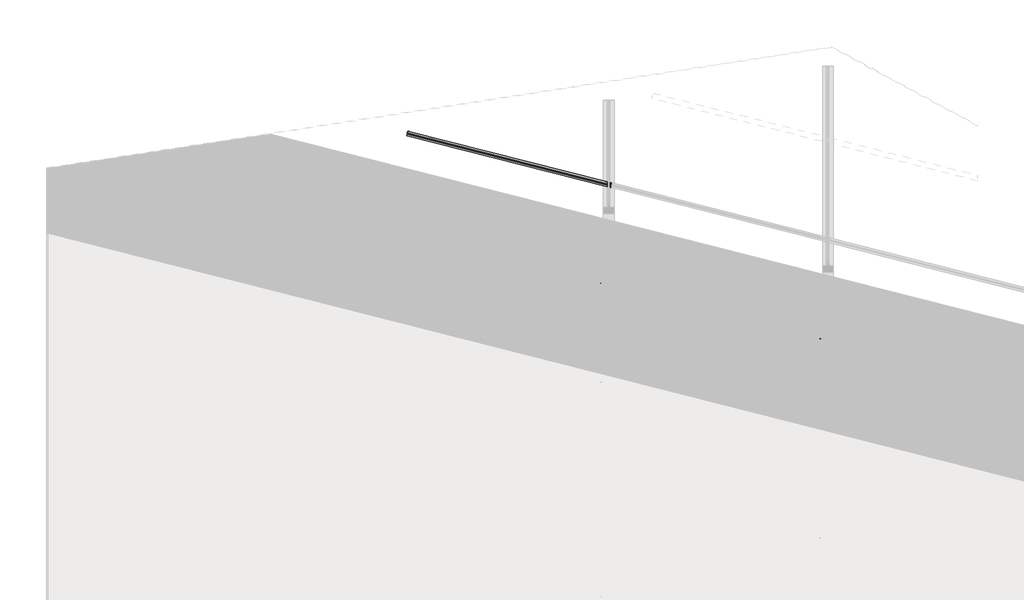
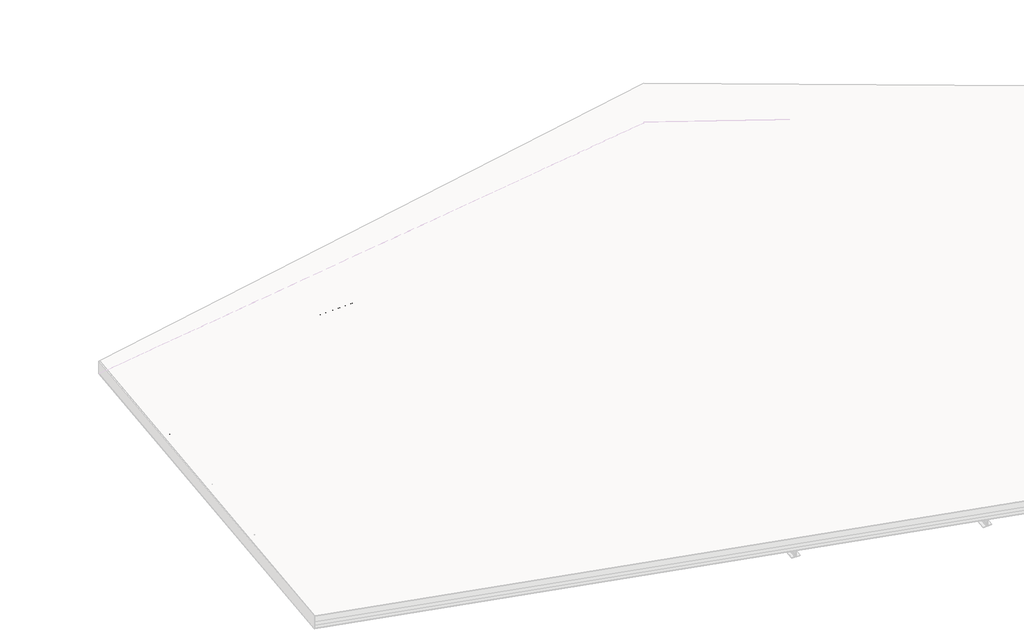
# One storey, part 5 of 10: 6 beams.
"""IFC4 building model written with IfcOpenShell, lengths in millimetres."""

from ifc_helpers import new_model, si_unit, point, frame, frame_2d, origin, place, context, project, spatial, polyline, circle_curve, ellipse_curve, trimmed, segment, composite_curve, outline, extrude, element, save
from ifc_brep_helpers import plane_surface, cylinder_surface, revolved_surface, advanced_brep

model = new_model("IFC4")

# Units and contexts
model_context = context("Model", 3, world=origin())
ifc_project = project(units=[si_unit("LENGTHUNIT", "METRE", prefix="MILLI")], contexts=[model_context])

# Site, building, storey
site = spatial("IfcSite", under=ifc_project)
building = spatial("IfcBuilding", under=site)
storey = spatial("IfcBuildingStorey", under=building, Name="2 Toiture batiment", Elevation=872910.0)

# Beams
placement = place(None, origin())
element("IfcBeam", 1, ObjectType="IPE : IPE160", at=placement, inside=storey, context=model_context, shape_type="AdvancedBrep", body=[
    advanced_brep(
    [(25201.9671325, 9476.1996619, 873833.1933867), (25202.189267, 9477.0737096, 873825.8485451), (25182.1484907, 9398.1908755, 873815.855259), (25181.9263562, 9397.3168278, 873823.2001005), (25189.1361477, 9425.6954084, 873826.7952461), (25191.0655815, 9433.2902495, 873836.8249856), (25187.24727, 9418.2660791, 873963.0768561), (25184.777509, 9408.5451761, 873970.9129473), (25177.5677175, 9380.1665956, 873967.3178017), (25177.3455831, 9379.2925479, 873974.6626432), (25197.3863594, 9458.175382, 873984.6559294), (25197.6084939, 9459.0494297, 873977.3110879), (25190.3987024, 9430.6708491, 873973.7159422), (25188.4692685, 9423.076008, 873963.6862028), (25192.2875801, 9438.1001784, 873837.4343323), (25194.757341, 9447.8210814, 873829.598241), (29150.9644129, 8442.7118516, 873829.6386271), (29150.9644129, 8472.9221431, 873833.2336991), (29150.9644129, 8432.3634841, 873837.4747436), (29060.6644129, 8439.3107479, 873963.7257313), (29060.6644129, 8443.1506946, 873933.4147932), (29149.9644129, 8420.7917717, 873930.8224401), (29150.9644129, 8420.6670796, 873929.8012841), (29060.6644129, 8447.3957786, 873973.755451), (29060.6644129, 8477.6060702, 873977.350523), (29060.6644129, 8476.6755873, 873984.6953668), (29060.6644129, 8392.7012176, 873974.7022853), (29060.6644129, 8393.6317005, 873967.3574415), (29060.6644129, 8423.841992, 873970.9525135), (29060.6644129, 8434.1903595, 873963.116397), (29150.9644129, 8427.2430957, 873836.8654094), (29150.9644129, 8415.5447357, 873929.2073859), (29149.9644129, 8415.6694278, 873930.228542), (29060.6644129, 8438.0283507, 873932.820895), (29150.9644129, 8419.158065, 873826.8356896), (29150.9644129, 8388.9477734, 873823.2406176), (29150.9644129, 8389.8782563, 873815.8957738), (29150.9644129, 8473.852626, 873825.8888554)],
    [
        (0, 1),
        (1, 2),
        (2, 3),
        (3, 4),
        (4, 5, circle_curve(frame((25188.8659841, 9424.6323775, 873835.7281615), z_axis=(0.9692098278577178, -0.24623628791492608, 9.893969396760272e-06), x_axis=(-0.24439971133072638, -0.9619857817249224, -0.12186934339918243)), 9.0)),
        (5, 6),
        (6, 7, circle_curve(frame((25185.0476726, 9409.6082071, 873961.980032), z_axis=(0.9692098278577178, -0.24623628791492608, 9.893969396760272e-06), x_axis=(-0.24439971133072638, -0.9619857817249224, -0.12186934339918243)), 9.0)),
        (7, 8),
        (8, 9),
        (9, 10),
        (10, 11),
        (11, 12),
        (12, 13, circle_curve(frame((25190.6688659, 9431.73388, 873964.7830269), z_axis=(0.9692098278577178, -0.24623628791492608, 9.893969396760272e-06), x_axis=(-0.24439971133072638, -0.9619857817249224, -0.12186934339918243)), 9.0)),
        (13, 14),
        (14, 15, circle_curve(frame((25194.4871775, 9446.7580505, 873838.5311564), z_axis=(0.9692098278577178, -0.24623628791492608, 9.893969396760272e-06), x_axis=(-0.24439971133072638, -0.9619857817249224, -0.12186934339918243)), 9.0)),
        (15, 0),
        (15, 16),
        (16, 17),
        (17, 0),
        (14, 18),
        (18, 16, ellipse_curve(frame((29150.9644129, 8441.5801832, 873838.5715452), z_axis=(1.0, 0.0, 0.0), x_axis=(0.0, 0.999999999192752, -4.01807933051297e-05)), 9.2859149, 9.0)),
        (13, 19),
        (19, 20),
        (20, 21),
        (21, 22, ellipse_curve(frame((29149.9644129, 8420.9174594, 873929.8303138), z_axis=(0.24439971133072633, 0.9619857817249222, 0.12186934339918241), x_axis=(0.9687660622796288, -0.24767382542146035, 0.012247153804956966)), 1.0313316, 1.0)),
        (22, 18),
        (12, 23),
        (23, 19, ellipse_curve(frame((29060.6644129, 8448.527447, 873964.8225329), z_axis=(1.0, 0.0, 0.0), x_axis=(0.0, 0.999999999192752, -4.018079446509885e-05)), 9.2859149, 9.0)),
        (11, 24),
        (24, 23),
        (10, 25),
        (25, 24),
        (9, 26),
        (26, 25),
        (8, 27),
        (27, 26),
        (7, 28),
        (28, 27),
        (6, 29),
        (29, 28, ellipse_curve(frame((29060.6644129, 8424.9736604, 873962.0195954), z_axis=(1.0, 0.0, 0.0), x_axis=(0.0, 0.999999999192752, -4.018079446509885e-05)), 9.2859149, 9.0)),
        (5, 30),
        (30, 31),
        (31, 32, ellipse_curve(frame((29149.9644129, 8415.7951155, 873929.2364156), z_axis=(-0.24439971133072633, -0.9619857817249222, -0.12186934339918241), x_axis=(0.9687660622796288, -0.24767382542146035, 0.012247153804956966)), 1.0313316, 1.0)),
        (32, 33),
        (33, 29),
        (4, 34),
        (34, 30, ellipse_curve(frame((29150.9644129, 8418.0263966, 873835.7686077), z_axis=(1.0, 0.0, 0.0), x_axis=(0.0, 0.999999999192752, -4.01807933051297e-05)), 9.2859149, 9.0)),
        (3, 35),
        (35, 34),
        (2, 36),
        (36, 35),
        (1, 37),
        (37, 36),
        (17, 37),
        (22, 31),
        (21, 32),
        (20, 33),
    ],
    [
        plane_surface(frame((25189.767425, 9428.1831288, 873900.2555942), z_axis=(-0.9692098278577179, 0.2462362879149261, -9.893969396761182e-06), x_axis=(-0.03001817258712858, -0.1181145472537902, 0.9925461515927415))),
        plane_surface(frame((29177.2781625, 8466.2369034, 873833.2339678), z_axis=(-0.030018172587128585, -0.11811454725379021, 0.9925461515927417), x_axis=(-0.9692098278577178, 0.24623628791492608, -9.893969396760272e-06))),
        revolved_surface(polyline([(25192.28758003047, 9438.100178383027, 873837.4343323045), (29150.980942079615, 8432.35928467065, 873837.4747437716)]), (29169.7982074, 8436.7952919, 873838.5717375), (-0.969209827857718, 0.24623628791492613, -9.893969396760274e-06)),
        plane_surface(frame((29167.59861, 8428.1374199, 873837.4749134), z_axis=(0.24439971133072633, 0.9619857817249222, 0.12186934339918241), x_axis=(-0.9692098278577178, 0.24623628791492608, -9.893969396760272e-06))),
        revolved_surface(polyline([(25188.469268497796, 9423.076007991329, 873963.6862028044), (29060.680942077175, 8439.306548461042, 873963.7257314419)]), (29165.9798959, 8421.7711215, 873964.823608), (-0.969209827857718, 0.24623628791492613, -9.893969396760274e-06)),
        plane_surface(frame((29165.7097323, 8420.7080906, 873973.7565233), z_axis=(0.030018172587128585, 0.11811454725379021, -0.9925461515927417), x_axis=(-0.9692098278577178, 0.24623628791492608, -9.893969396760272e-06))),
        plane_surface(frame((29172.9195238, 8449.0866712, 873977.351669), z_axis=(0.24439971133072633, 0.9619857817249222, 0.12186934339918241), x_axis=(-0.9692098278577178, 0.24623628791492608, -9.893969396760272e-06))),
        plane_surface(frame((29172.6973893, 8448.2126235, 873984.6965105), z_axis=(-0.030018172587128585, -0.11811454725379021, 0.9925461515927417), x_axis=(-0.9692098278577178, 0.24623628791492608, -9.893969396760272e-06))),
        plane_surface(frame((29152.656613, 8369.3297894, 873974.7032243), z_axis=(-0.24439971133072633, -0.9619857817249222, -0.12186934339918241), x_axis=(-0.9692098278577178, 0.24623628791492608, -9.893969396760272e-06))),
        plane_surface(frame((29152.8787475, 8370.2038371, 873967.3583828), z_axis=(0.030018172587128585, 0.11811454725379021, -0.9925461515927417), x_axis=(-0.9692098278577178, 0.24623628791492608, -9.893969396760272e-06))),
        revolved_surface(polyline([(25182.8480751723, 9400.9503350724, 873960.8832079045), (29060.680942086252, 8415.752761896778, 873960.9227939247)]), (29160.3587025, 8399.6454486, 873962.0206131), (-0.969209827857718, 0.24623628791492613, -9.893969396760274e-06)),
        plane_surface(frame((29162.5582999, 8408.3033206, 873963.1174372), z_axis=(-0.24439971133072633, -0.9619857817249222, -0.12186934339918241), x_axis=(-0.9692098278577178, 0.24623628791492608, -9.893969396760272e-06))),
        revolved_surface(polyline([(25186.66638670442, 9415.974505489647, 873834.6313374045), (29150.980942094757, 8408.805498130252, 873834.6718062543)]), (29164.1770141, 8414.669619, 873835.7687426), (-0.969209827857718, 0.24623628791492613, -9.893969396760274e-06)),
        plane_surface(frame((29164.4471776, 8415.7326499, 873826.8358272), z_axis=(-0.030018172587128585, -0.11811454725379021, 0.9925461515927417), x_axis=(-0.9692098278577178, 0.24623628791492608, -9.893969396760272e-06))),
        plane_surface(frame((29157.2373861, 8387.3540693, 873823.2406816), z_axis=(-0.24439971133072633, -0.9619857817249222, -0.12186934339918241), x_axis=(-0.9692098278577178, 0.24623628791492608, -9.893969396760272e-06))),
        plane_surface(frame((29157.4595206, 8388.228117, 873815.8958401), z_axis=(0.030018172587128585, 0.11811454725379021, -0.9925461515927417), x_axis=(-0.9692098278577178, 0.24623628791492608, -9.893969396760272e-06))),
        plane_surface(frame((29177.5002969, 8467.1109511, 873825.8891262), z_axis=(0.24439971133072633, 0.9619857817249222, 0.12186934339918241), x_axis=(-0.9692098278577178, 0.24623628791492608, -9.893969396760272e-06))),
        plane_surface(frame((29150.9644129, 11714.882228, 873930.4038127), z_axis=(1.0, 0.0, 0.0), x_axis=(0.0, -0.9933456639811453, -0.11517114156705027))),
        cylinder_surface(frame((29149.9644129, 5615.1745573, 873604.52501), z_axis=(0.0, -0.9933456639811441, -0.11517114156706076), x_axis=(1.0, 0.0, 0.0)), 1.0),
        plane_surface(frame((29149.9644129, 11671.1402284, 874307.6764959), z_axis=(0.0, -0.11517114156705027, 0.9933456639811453), x_axis=(0.0, -0.9933456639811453, -0.11517114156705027))),
        plane_surface(frame((29060.6644129, 11671.1402284, 874307.6764959), z_axis=(1.0, 0.0, 0.0), x_axis=(0.0, -0.9933456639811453, -0.11517114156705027))),
    ],
    [
        (0, [[1, 2, 3, 4, 5, 6, 7, 8, 9, 10, 11, 12, 13, 14, 15, 16]]),
        (1, [[-16, 17, 18, 19]]),
        (2, [[-15, 20, 21, -17]]),
        (3, [[-14, 22, 23, 24, 25, 26, -20]]),
        (4, [[-13, 27, 28, -22]]),
        (5, [[-12, 29, 30, -27]]),
        (6, [[-11, 31, 32, -29]]),
        (7, [[-10, 33, 34, -31]]),
        (8, [[-9, 35, 36, -33]]),
        (9, [[-8, 37, 38, -35]]),
        (10, [[-7, 39, 40, -37]]),
        (11, [[-6, 41, 42, 43, 44, 45, -39]]),
        (12, [[-5, 46, 47, -41]]),
        (13, [[-4, 48, 49, -46]]),
        (14, [[-3, 50, 51, -48]]),
        (15, [[-2, 52, 53, -50]]),
        (16, [[-1, -19, 54, -52]]),
        (17, [[55, -42, -47, -49, -51, -53, -54, -18, -21, -26]]),
        (18, [[-55, -25, 56, -43]]),
        (19, [[-56, -24, 57, -44]]),
        (20, [[-57, -23, -28, -30, -32, -34, -36, -38, -40, -45]]),
    ],
),
])
element("IfcBeam", 2, ObjectType="IPE : IPE160", at=placement, inside=storey, context=model_context, shape_type="AdvancedBrep", body=[
    advanced_brep(
    [(29200.3644129, 6654.3934411, 873609.2373419), (29200.3644129, 6624.1793793, 873605.6426199), (33048.0031572, 5644.6427663, 873605.8682862), (33048.0031572, 5674.8568282, 873609.4630082), (29200.3644129, 6662.4794809, 873619.266968), (33048.0031572, 5682.9428679, 873619.4926343), (29290.6644129, 6623.4945534, 873745.5243591), (29290.6644129, 6626.3771399, 873722.7732292), (29201.3644129, 6648.7814603, 873725.3708458), (29200.3644129, 6649.1580515, 873724.4078098), (33048.0031572, 5669.2664935, 873727.4349188), (33047.0031572, 5669.3916448, 873728.4564005), (32957.7031572, 5691.7928012, 873731.0789885), (32957.7031572, 5689.935311, 873745.7394331), (29290.6644129, 6613.1448945, 873753.3605955), (32957.7031572, 5679.5856521, 873753.5756695), (29290.6644129, 6582.9308327, 873749.7658736), (32957.7031572, 5649.3715903, 873749.9809476), (29290.6644129, 6582.0002337, 873757.1107282), (32957.7031572, 5648.4409913, 873757.3258022), (29290.6644129, 6665.9850835, 873767.1028367), (32957.7031572, 5732.4258411, 873767.3179107), (29290.6644129, 6666.9156825, 873759.7579821), (32957.7031572, 5733.3564401, 873759.9730561), (29290.6644129, 6636.7016207, 873756.1632601), (32957.7031572, 5703.1423783, 873756.3783341), (29290.6644129, 6628.6155809, 873746.133634), (32957.7031572, 5695.0563385, 873746.348708), (29290.6644129, 6631.5001065, 873723.3671996), (32957.7031572, 5696.9150443, 873731.6786688), (33047.0031572, 5674.5138878, 873729.0560809), (33048.0031572, 5674.3887366, 873728.0345991), (33048.0031572, 5688.0638954, 873620.1019092), (29200.3644129, 6667.6005083, 873619.8762429), (29200.3644129, 6654.281018, 873725.0017802), (29201.3644129, 6653.9044268, 873725.9648161), (29200.3644129, 6677.9501673, 873612.0400065), (33048.0031572, 5698.4135543, 873612.2656728), (29200.3644129, 6708.1642291, 873615.6347284), (33048.0031572, 5728.6276161, 873615.8603947), (29200.3644129, 6709.0948281, 873608.2898738), (33048.0031572, 5729.5582151, 873608.5155402), (29200.3644129, 6625.1099783, 873598.2977653), (33048.0031572, 5645.5733653, 873598.5234317)],
    [
        (0, 1),
        (1, 2),
        (2, 3),
        (3, 0),
        (4, 0, ellipse_curve(frame((29200.3644129, 6653.2616315, 873618.1702731), z_axis=(-1.0, 0.0, 0.0), x_axis=(0.0, -0.9999999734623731, 0.00023038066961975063)), 9.2870738, 9.0)),
        (3, 5, ellipse_curve(frame((33048.0031572, 5673.7250186, 873618.3959394), z_axis=(1.0, 0.0, 0.0), x_axis=(0.0, -0.9999999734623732, 0.0002303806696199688)), 9.2870738, 9.0)),
        (5, 4),
        (6, 7),
        (7, 8),
        (8, 9, ellipse_curve(frame((29201.3644129, 6648.9071633, 873724.3787212), z_axis=(-0.24486617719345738, -0.9618671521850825, -0.1218693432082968), x_axis=(0.9686493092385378, -0.2481340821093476, 0.012165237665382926)), 1.031457, 1.0)),
        (9, 4),
        (5, 10),
        (10, 11, ellipse_curve(frame((33047.0031572, 5669.5173463, 873727.4642871), z_axis=(-0.24486617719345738, -0.9618671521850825, -0.1218693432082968), x_axis=(0.968830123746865, -0.24760791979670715, 0.007649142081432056)), 1.0314454, 1.0)),
        (11, 12),
        (12, 13),
        (13, 6),
        (14, 6, ellipse_curve(frame((29290.6644129, 6614.2767041, 873744.4276643), z_axis=(-1.0, 0.0, 0.0), x_axis=(0.0, -0.9999999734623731, 0.00023038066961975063)), 9.2870738, 9.0)),
        (13, 15, ellipse_curve(frame((32957.7031572, 5680.7174617, 873744.6427383), z_axis=(1.0, 0.0, 0.0), x_axis=(0.0, -0.9999999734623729, 0.00023038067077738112)), 9.2870738, 9.0)),
        (15, 14),
        (16, 14),
        (15, 17),
        (17, 16),
        (18, 16),
        (17, 19),
        (19, 18),
        (20, 18),
        (19, 21),
        (21, 20),
        (22, 20),
        (21, 23),
        (23, 22),
        (24, 22),
        (23, 25),
        (25, 24),
        (26, 24, ellipse_curve(frame((29290.6644129, 6637.8334302, 873747.2303289), z_axis=(-1.0, 0.0, 0.0), x_axis=(0.0, -0.9999999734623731, 0.00023038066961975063)), 9.2870738, 9.0)),
        (25, 27, ellipse_curve(frame((32957.7031572, 5704.2741878, 873747.4454029), z_axis=(1.0, 0.0, 0.0), x_axis=(0.0, -0.9999999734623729, 0.00023038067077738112)), 9.2870738, 9.0)),
        (27, 26),
        (28, 26),
        (27, 29),
        (29, 30),
        (30, 31, ellipse_curve(frame((33047.0031572, 5674.6395894, 873728.0639674), z_axis=(0.24486617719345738, 0.9618671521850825, 0.1218693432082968), x_axis=(0.968830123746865, -0.24760791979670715, 0.007649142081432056)), 1.0314454, 1.0)),
        (31, 32),
        (32, 33),
        (33, 34),
        (34, 35, ellipse_curve(frame((29201.3644129, 6654.0301298, 873724.9726916), z_axis=(0.24486617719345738, 0.9618671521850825, 0.1218693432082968), x_axis=(0.9686493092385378, -0.2481340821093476, 0.012165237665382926)), 1.031457, 1.0)),
        (35, 28),
        (36, 33, ellipse_curve(frame((29200.3644129, 6676.8183577, 873620.9729377), z_axis=(-1.0, 0.0, 0.0), x_axis=(0.0, -0.9999999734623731, 0.00023038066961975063)), 9.2870738, 9.0)),
        (32, 37, ellipse_curve(frame((33048.0031572, 5697.2817447, 873621.198604), z_axis=(1.0, 0.0, 0.0), x_axis=(0.0, -0.9999999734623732, 0.0002303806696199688)), 9.2870738, 9.0)),
        (37, 36),
        (38, 36),
        (37, 39),
        (39, 38),
        (40, 38),
        (39, 41),
        (41, 40),
        (42, 40),
        (41, 43),
        (43, 42),
        (1, 42),
        (43, 2),
        (28, 7),
        (35, 8),
        (34, 9),
        (31, 10),
        (30, 11),
        (29, 12),
    ],
    [
        plane_surface(frame((29169.5825421, 6632.0158659, 873605.6408146), z_axis=(-0.03012128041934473, -0.11808830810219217, 0.9925461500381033), x_axis=(0.9690888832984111, -0.24671184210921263, 5.6837640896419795e-05))),
        revolved_surface(polyline([(33052.42735942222, 5681.816549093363, 873619.4928937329), (29200.347801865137, 6662.483709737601, 873619.2669669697)]), (29176.5350028, 6659.3281521, 873618.1688755), (0.9690888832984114, -0.24671184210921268, 5.683764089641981e-05)),
        plane_surface(frame((29178.7387984, 6667.9849565, 873619.2656996), z_axis=(-0.24486617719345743, -0.9618671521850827, -0.12186934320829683), x_axis=(0.9690888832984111, -0.24671184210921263, 5.6837640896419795e-05))),
        revolved_surface(polyline([(32962.12735942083, 5688.808992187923, 873745.7396925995), (29290.647801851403, 6623.498782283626, 873745.5243581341)]), (29172.7035759, 6644.3073193, 873744.4207458), (0.9690888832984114, -0.24671184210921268, 5.683764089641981e-05)),
        plane_surface(frame((29172.4324844, 6643.2445245, 873753.3536612), z_axis=(0.03012128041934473, 0.11808830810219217, -0.9925461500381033), x_axis=(0.9690888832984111, -0.24671184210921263, 5.6837640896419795e-05))),
        plane_surface(frame((29165.2089321, 6614.8694436, 873749.7585155), z_axis=(-0.24486617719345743, -0.9618671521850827, -0.12186934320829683), x_axis=(0.9690888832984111, -0.24671184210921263, 5.6837640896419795e-05))),
        plane_surface(frame((29164.9860347, 6613.9955901, 873757.1033571), z_axis=(-0.03012128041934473, -0.11808830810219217, 0.9925461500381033), x_axis=(0.9690888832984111, -0.24671184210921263, 5.6837640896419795e-05))),
        plane_surface(frame((29185.0650612, 6692.8686966, 873767.0966432), z_axis=(0.24486617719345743, 0.9618671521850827, 0.12186934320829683), x_axis=(0.9690888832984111, -0.24671184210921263, 5.6837640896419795e-05))),
        plane_surface(frame((29185.2879587, 6693.74255, 873759.7518017), z_axis=(0.03012128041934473, 0.11808830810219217, -0.9925461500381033), x_axis=(0.9690888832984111, -0.24671184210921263, 5.6837640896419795e-05))),
        revolved_surface(polyline([(32962.12735943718, 5712.365718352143, 873748.542357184), (29290.64780186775, 6647.055508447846, 873748.3270227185)]), (29178.335498, 6666.4302638, 873747.2237407), (0.9690888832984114, -0.24671184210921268, 5.683764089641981e-05)),
        plane_surface(frame((29176.1317024, 6657.7734594, 873746.1269166), z_axis=(0.24486617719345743, 0.9618671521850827, 0.12186934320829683), x_axis=(0.9690888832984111, -0.24671184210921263, 5.6837640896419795e-05))),
        revolved_surface(polyline([(33052.42735943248, 5705.3732752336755, 873622.2955583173), (29200.34780185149, 6686.040435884, 873622.0696315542)]), (29182.1669248, 6681.4510966, 873620.9718704), (0.9690888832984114, -0.24671184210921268, 5.683764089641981e-05)),
        plane_surface(frame((29182.4380164, 6682.5138914, 873612.0389551), z_axis=(-0.03012128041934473, -0.11808830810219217, 0.9925461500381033), x_axis=(0.9690888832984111, -0.24671184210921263, 5.6837640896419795e-05))),
        plane_surface(frame((29189.6615686, 6710.8889724, 873615.6341007), z_axis=(0.24486617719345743, 0.9618671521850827, 0.12186934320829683), x_axis=(0.9690888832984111, -0.24671184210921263, 5.6837640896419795e-05))),
        plane_surface(frame((29189.8844661, 6711.7628258, 873608.2892592), z_axis=(0.03012128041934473, 0.11808830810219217, -0.9925461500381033), x_axis=(0.9690888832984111, -0.24671184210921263, 5.6837640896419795e-05))),
        plane_surface(frame((29169.8054395, 6632.8897194, 873598.295973), z_axis=(-0.24486617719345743, -0.9618671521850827, -0.12186934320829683), x_axis=(0.9690888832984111, -0.24671184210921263, 5.6837640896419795e-05))),
        plane_surface(frame((29290.6644129, 11664.8518841, 874361.9131692), z_axis=(-1.0, 0.0, 0.0), x_axis=(0.0, -0.9933456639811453, -0.11517114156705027))),
        plane_surface(frame((29290.6644129, 11671.1402284, 874307.6764959), z_axis=(0.0, -0.11517114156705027, 0.9933456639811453), x_axis=(0.0, -0.9933456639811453, -0.11517114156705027))),
        cylinder_surface(frame((29201.3644129, 5615.1745573, 873604.52501), z_axis=(0.0, -0.9933456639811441, -0.11517114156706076), x_axis=(0.0, -0.11517114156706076, 0.9933456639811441)), 1.0),
        plane_surface(frame((29200.3644129, 11671.2553996, 874306.6831503), z_axis=(-1.0, 0.0, 0.0), x_axis=(0.0, -0.9933456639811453, -0.11517114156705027))),
        plane_surface(frame((33048.0031572, 12313.5310461, 874123.9169234), z_axis=(1.0, 0.0, 0.0), x_axis=(0.0, -0.9932165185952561, -0.1162796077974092))),
        cylinder_surface(frame((33047.0031572, 5419.220341, 873698.1610717), z_axis=(0.0, -0.9932165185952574, -0.11627960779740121), x_axis=(1.0000000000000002, 0.0, 0.0)), 1.0),
        plane_surface(frame((33047.0031572, 12269.368051, 874501.1405571), z_axis=(0.0, -0.11627960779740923, 0.9932165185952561), x_axis=(0.0, -0.9932165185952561, -0.11627960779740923))),
        plane_surface(frame((32957.7031572, 12269.368051, 874501.1405571), z_axis=(1.0, 0.0, 0.0), x_axis=(0.0, -0.9932165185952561, -0.11627960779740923))),
    ],
    [
        (0, [[1, 2, 3, 4]]),
        (1, [[5, -4, 6, 7]]),
        (2, [[8, 9, 10, 11, -7, 12, 13, 14, 15, 16]]),
        (3, [[17, -16, 18, 19]]),
        (4, [[20, -19, 21, 22]]),
        (5, [[23, -22, 24, 25]]),
        (6, [[26, -25, 27, 28]]),
        (7, [[29, -28, 30, 31]]),
        (8, [[32, -31, 33, 34]]),
        (9, [[35, -34, 36, 37]]),
        (10, [[38, -37, 39, 40, 41, 42, 43, 44, 45, 46]]),
        (11, [[47, -43, 48, 49]]),
        (12, [[50, -49, 51, 52]]),
        (13, [[53, -52, 54, 55]]),
        (14, [[56, -55, 57, 58]]),
        (15, [[59, -58, 60, -2]]),
        (16, [[61, -8, -17, -20, -23, -26, -29, -32, -35, -38]]),
        (17, [[-61, -46, 62, -9]]),
        (18, [[-62, -45, 63, -10]]),
        (19, [[-63, -44, -47, -50, -53, -56, -59, -1, -5, -11]]),
        (20, [[64, -12, -6, -3, -60, -57, -54, -51, -48, -42]]),
        (21, [[-64, -41, 65, -13]]),
        (22, [[-65, -40, 66, -14]]),
        (23, [[-66, -39, -36, -33, -30, -27, -24, -21, -18, -15]]),
    ],
),
])
element("IfcBeam", 3, ObjectType="IPE : IPE160", at=placement, inside=storey, context=model_context, shape_type="AdvancedBrep", body=[
    advanced_brep(
    [(33048.0031572, 7406.7150883, 873812.2218632), (33048.0031572, 7436.9108496, 873815.8373555), (29200.3644129, 8406.6539612, 873826.7701841), (29200.3644129, 8376.4581998, 873823.1546919), (33048.0031572, 7444.9919918, 873825.8725746), (29200.3644129, 8414.7351033, 873836.8054032), (33048.0031572, 7431.3339138, 873933.7268045), (33047.0031572, 7431.4569855, 873934.7480428), (32957.7031572, 7453.6666526, 873937.3482124), (32957.7031572, 7451.7642806, 873952.3707413), (29290.6644129, 8375.9897077, 873962.7904062), (29290.6644129, 8380.6276622, 873926.1657063), (29201.3644129, 8402.8404646, 873928.7411178), (29200.3644129, 8403.2148464, 873927.7778257), (32957.7031572, 7441.4208904, 873960.1998974), (29290.6644129, 8365.6463175, 873970.6195623), (32957.7031572, 7411.225129, 873956.5844052), (29290.6644129, 8335.4505561, 873967.0040701), (32957.7031572, 7410.2950936, 873963.9286483), (29290.6644129, 8334.5205208, 873974.3483132), (32957.7031572, 7494.2290744, 873973.9784911), (29290.6644129, 8418.4545016, 873984.398156), (32957.7031572, 7495.1591098, 873966.6342479), (29290.6644129, 8419.3845369, 873977.0539128), (32957.7031572, 7464.9633484, 873963.0187557), (29290.6644129, 8389.1887755, 873973.4384206), (32957.7031572, 7456.8822063, 873952.9835366), (29290.6644129, 8381.1076334, 873963.4032015), (33048.0031572, 7436.4535391, 873934.3261784), (33048.0031572, 7450.1099174, 873826.4853699), (29200.3644129, 8419.8530289, 873837.4181985), (29200.3644129, 8408.3351944, 873928.3714925), (29201.3644129, 8407.9608126, 873929.3347846), (29290.6644129, 8385.7480102, 873926.7593731), (32957.7031572, 7458.7862779, 873937.9475862), (33047.0031572, 7436.5766107, 873935.3474167), (33048.0031572, 7460.4533077, 873818.6562138), (29200.3644129, 8430.1964192, 873829.5890424), (33048.0031572, 7490.649069, 873822.271706), (29200.3644129, 8460.3921806, 873833.2045347), (33048.0031572, 7491.5791044, 873814.9274629), (29200.3644129, 8461.3222159, 873825.8602915), (33048.0031572, 7407.6451236, 873804.8776201), (29200.3644129, 8377.3882351, 873815.8104488)],
    [
        (0, 1),
        (1, 2),
        (2, 3),
        (3, 0),
        (1, 4, ellipse_curve(frame((33048.0031572, 7435.7797256, 873824.7695431), z_axis=(1.0, 0.0, 0.0), x_axis=(0.0, -0.99993645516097, -0.011273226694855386)), 9.2814839, 9.0)),
        (4, 5),
        (5, 2, ellipse_curve(frame((29200.3644129, 8405.5228371, 873835.7023717), z_axis=(-1.0, 0.0, 0.0), x_axis=(0.0, -0.9999364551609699, -0.011273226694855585)), 9.2814839, 9.0)),
        (4, 6),
        (6, 7, ellipse_curve(frame((33047.0031572, 7431.5826223, 873933.7559218), z_axis=(-0.24289715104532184, -0.9623663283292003, -0.12186888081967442), x_axis=(0.9693231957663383, -0.24566077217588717, 0.007957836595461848)), 1.0309183, 1.0)),
        (7, 8),
        (8, 9),
        (9, 10),
        (10, 11),
        (11, 12),
        (12, 13, ellipse_curve(frame((29201.3644129, 8402.9661028, 873927.7489857), z_axis=(-0.24289715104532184, -0.9623663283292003, -0.12186888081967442), x_axis=(0.9691405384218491, -0.2461911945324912, 0.01251049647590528)), 1.0309298, 1.0)),
        (13, 5),
        (9, 14, ellipse_curve(frame((32957.7031572, 7442.5520144, 873951.2677098), z_axis=(1.0, 0.0, 0.0), x_axis=(0.0, -0.9999364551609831, -0.011273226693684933)), 9.2814839, 9.0)),
        (14, 15),
        (15, 10, ellipse_curve(frame((29290.6644129, 8366.7774416, 873961.6873747), z_axis=(-1.0, 0.0, 0.0), x_axis=(0.0, -0.9999364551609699, -0.011273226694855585)), 9.2814839, 9.0)),
        (14, 16),
        (16, 17),
        (17, 15),
        (16, 18),
        (18, 19),
        (19, 17),
        (18, 20),
        (20, 21),
        (21, 19),
        (20, 22),
        (22, 23),
        (23, 21),
        (22, 24),
        (24, 25),
        (25, 23),
        (24, 26, ellipse_curve(frame((32957.7031572, 7466.0944724, 873954.0865681), z_axis=(1.0, 0.0, 0.0), x_axis=(0.0, -0.9999364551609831, -0.011273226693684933)), 9.2814839, 9.0)),
        (26, 27),
        (27, 25, ellipse_curve(frame((29290.6644129, 8390.3198996, 873964.506233), z_axis=(-1.0, 0.0, 0.0), x_axis=(0.0, -0.9999364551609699, -0.011273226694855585)), 9.2814839, 9.0)),
        (28, 29),
        (29, 30),
        (30, 31),
        (31, 32, ellipse_curve(frame((29201.3644129, 8408.0864508, 873928.3426525), z_axis=(0.24289715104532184, 0.9623663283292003, 0.12186888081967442), x_axis=(0.9691405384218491, -0.2461911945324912, 0.01251049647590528)), 1.0309298, 1.0)),
        (32, 33),
        (33, 27),
        (26, 34),
        (34, 35),
        (35, 28, ellipse_curve(frame((33047.0031572, 7436.7022476, 873934.3552956), z_axis=(0.24289715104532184, 0.9623663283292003, 0.12186888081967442), x_axis=(0.9693231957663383, -0.24566077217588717, 0.007957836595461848)), 1.0309183, 1.0)),
        (29, 36, ellipse_curve(frame((33048.0031572, 7459.3221836, 873827.5884014), z_axis=(1.0, 0.0, 0.0), x_axis=(0.0, -0.99993645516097, -0.011273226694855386)), 9.2814839, 9.0)),
        (36, 37),
        (37, 30, ellipse_curve(frame((29200.3644129, 8429.0652951, 873838.5212301), z_axis=(-1.0, 0.0, 0.0), x_axis=(0.0, -0.9999364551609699, -0.011273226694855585)), 9.2814839, 9.0)),
        (36, 38),
        (38, 39),
        (39, 37),
        (38, 40),
        (40, 41),
        (41, 39),
        (40, 42),
        (42, 43),
        (43, 41),
        (42, 0),
        (3, 43),
        (28, 6),
        (35, 7),
        (34, 8),
        (33, 11),
        (32, 12),
        (31, 13),
    ],
    [
        plane_surface(frame((29170.3902363, 8384.0127685, 873823.2398617), z_axis=(-0.027132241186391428, -0.11884215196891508, 0.9925423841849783), x_axis=(0.9696725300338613, -0.2443922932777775, -0.002755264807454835))),
        revolved_surface(polyline([(33052.388901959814, 7443.88662659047, 873825.8601127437), (29200.350816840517, 8414.738529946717, 873836.8054418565)]), (29177.311512, 8411.3329958, 873835.7678751), (0.9696725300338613, -0.2443922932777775, -0.002755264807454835)),
        plane_surface(frame((29179.4975864, 8419.9942928, 873836.864695), z_axis=(-0.24289715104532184, -0.9623663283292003, -0.12186888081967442), x_axis=(0.9696725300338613, -0.2443922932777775, -0.002755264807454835))),
        revolved_surface(polyline([(32962.088901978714, 7450.658915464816, 873952.3582795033), (29290.65081684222, 8375.993134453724, 873962.7904448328)]), (29173.860291, 8396.2162741, 873962.0192664), (0.9696725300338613, -0.2443922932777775, -0.002755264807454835)),
        plane_surface(frame((29173.6161008, 8395.1466947, 873970.9521478), z_axis=(0.027132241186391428, 0.11884215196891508, -0.9925423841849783), x_axis=(0.9696725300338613, -0.2443922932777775, -0.002755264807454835))),
        plane_surface(frame((29166.4506348, 8366.756888, 873967.3570159), z_axis=(-0.24289715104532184, -0.9623663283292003, -0.12186888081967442), x_axis=(0.9696725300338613, -0.2443922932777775, -0.002755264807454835))),
        plane_surface(frame((29166.2498563, 8365.8774561, 873974.7018295), z_axis=(-0.027132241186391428, -0.11884215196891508, 0.9925423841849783), x_axis=(0.9696725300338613, -0.2443922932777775, -0.002755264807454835))),
        plane_surface(frame((29186.1674226, 8444.791495, 873984.6950777), z_axis=(0.24289715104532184, 0.9623663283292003, 0.12186888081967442), x_axis=(0.9696725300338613, -0.2443922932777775, -0.002755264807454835))),
        plane_surface(frame((29186.3682012, 8445.670927, 873977.3502641), z_axis=(0.027132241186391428, 0.11884215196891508, -0.9925423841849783), x_axis=(0.9696725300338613, -0.2443922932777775, -0.002755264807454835))),
        revolved_surface(polyline([(32962.08890196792, 7474.201373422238, 873955.177137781), (29290.650816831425, 8399.535592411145, 873965.6093031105)]), (29179.4469254, 8418.3506996, 873964.8222506), (0.9696725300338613, -0.2443922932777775, -0.002755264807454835)),
        plane_surface(frame((29177.2608511, 8409.6894027, 873963.7254307), z_axis=(0.24289715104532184, 0.9623663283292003, 0.12186888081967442), x_axis=(0.9696725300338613, -0.2443922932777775, -0.002755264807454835))),
        revolved_surface(polyline([(33052.38890197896, 7467.42908466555, 873828.6789711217), (29200.350816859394, 8438.280988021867, 873839.6243002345)]), (29182.8981465, 8433.4674214, 873838.5708594), (0.9696725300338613, -0.2443922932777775, -0.002755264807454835)),
        plane_surface(frame((29183.1423367, 8434.5370007, 873829.6379779), z_axis=(-0.027132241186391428, -0.11884215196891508, 0.9925423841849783), x_axis=(0.9696725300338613, -0.2443922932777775, -0.002755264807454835))),
        plane_surface(frame((29190.3078026, 8462.9268074, 873833.2331099), z_axis=(0.24289715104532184, 0.9623663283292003, 0.12186888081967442), x_axis=(0.9696725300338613, -0.2443922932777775, -0.002755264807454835))),
        plane_surface(frame((29190.5085812, 8463.8062393, 873825.8882963), z_axis=(0.027132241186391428, 0.11884215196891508, -0.9925423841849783), x_axis=(0.9696725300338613, -0.2443922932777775, -0.002755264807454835))),
        plane_surface(frame((29170.5910148, 8384.8922004, 873815.895048), z_axis=(-0.24289715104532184, -0.9623663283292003, -0.12186888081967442), x_axis=(0.9696725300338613, -0.2443922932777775, -0.002755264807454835))),
        plane_surface(frame((33048.0031572, 12313.5310461, 874123.9169234), z_axis=(1.0, 0.0, 0.0), x_axis=(0.0, -0.9932165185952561, -0.1162796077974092))),
        cylinder_surface(frame((33047.0031572, 5419.220341, 873698.1610717), z_axis=(0.0, -0.9932165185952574, -0.11627960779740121), x_axis=(1.0000000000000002, 0.0, 0.0)), 1.0),
        plane_surface(frame((33047.0031572, 12269.368051, 874501.1405571), z_axis=(0.0, -0.11627960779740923, 0.9932165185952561), x_axis=(0.0, -0.9932165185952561, -0.11627960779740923))),
        plane_surface(frame((32957.7031572, 12269.368051, 874501.1405571), z_axis=(1.0, 0.0, 0.0), x_axis=(0.0, -0.9932165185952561, -0.11627960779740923))),
        plane_surface(frame((29290.6644129, 11664.8518841, 874361.9131692), z_axis=(-1.0, 0.0, 0.0), x_axis=(0.0, -0.9933456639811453, -0.11517114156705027))),
        plane_surface(frame((29290.6644129, 11671.1402284, 874307.6764959), z_axis=(0.0, -0.11517114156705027, 0.9933456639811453), x_axis=(0.0, -0.9933456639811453, -0.11517114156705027))),
        cylinder_surface(frame((29201.3644129, 5615.1745573, 873604.52501), z_axis=(0.0, -0.9933456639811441, -0.11517114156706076), x_axis=(0.0, -0.11517114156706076, 0.9933456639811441)), 1.0),
        plane_surface(frame((29200.3644129, 11671.2553996, 874306.6831503), z_axis=(-1.0, 0.0, 0.0), x_axis=(0.0, -0.9933456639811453, -0.11517114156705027))),
    ],
    [
        (0, [[1, 2, 3, 4]]),
        (1, [[5, 6, 7, -2]]),
        (2, [[8, 9, 10, 11, 12, 13, 14, 15, 16, -6]]),
        (3, [[17, 18, 19, -12]]),
        (4, [[20, 21, 22, -18]]),
        (5, [[23, 24, 25, -21]]),
        (6, [[26, 27, 28, -24]]),
        (7, [[29, 30, 31, -27]]),
        (8, [[32, 33, 34, -30]]),
        (9, [[35, 36, 37, -33]]),
        (10, [[38, 39, 40, 41, 42, 43, -36, 44, 45, 46]]),
        (11, [[47, 48, 49, -39]]),
        (12, [[50, 51, 52, -48]]),
        (13, [[53, 54, 55, -51]]),
        (14, [[56, 57, 58, -54]]),
        (15, [[59, -4, 60, -57]]),
        (16, [[61, -8, -5, -1, -59, -56, -53, -50, -47, -38]]),
        (17, [[-61, -46, 62, -9]]),
        (18, [[-62, -45, 63, -10]]),
        (19, [[-63, -44, -35, -32, -29, -26, -23, -20, -17, -11]]),
        (20, [[64, -13, -19, -22, -25, -28, -31, -34, -37, -43]]),
        (21, [[-64, -42, 65, -14]]),
        (22, [[-65, -41, 66, -15]]),
        (23, [[-66, -40, -49, -52, -55, -58, -60, -3, -7, -16]]),
    ],
),
])
element("IfcBeam", 4, ObjectType="IPE : IPE160", at=placement, inside=storey, context=model_context, shape_type="AdvancedBrep", body=[
    advanced_brep(
    [(29227.9664105, 10222.9895352, 874039.7341003), (29220.7565845, 10194.6109634, 874036.1389547), (29218.2868987, 10184.8900413, 874043.975046), (29215.5616665, 10174.1632639, 874134.1130002), (29214.3381211, 10169.3472712, 874133.5546212), (29217.0648943, 10180.0801139, 874043.3656993), (29215.1353643, 10172.4852972, 874033.3359598), (29207.9255383, 10144.1067254, 874029.7408142), (29208.1476023, 10144.980791, 874022.3959727), (29228.1884745, 10223.8636007, 874032.3892588), (29200.3644129, 10230.0020656, 874039.7341003), (29200.3644129, 10199.7917741, 874036.1389547), (29200.3644129, 10189.4434066, 874043.975046), (29200.3644129, 10178.0940575, 874133.562048), (29201.3644129, 10177.7179886, 874134.5251444), (29201.3644129, 10172.5956431, 874133.9312461), (29200.3644129, 10172.971712, 874132.9681496), (29200.3644129, 10184.3230182, 874043.3656993), (29200.3644129, 10176.2379874, 874033.3359598), (29200.3644129, 10146.0276959, 874029.7408142), (29200.3644129, 10146.9581788, 874022.3959727), (29200.3644129, 10230.9325485, 874032.3892588)],
    [
        (0, 1),
        (1, 2, circle_curve(frame((29220.4865066, 10193.5479107, 874045.0718701), z_axis=(-0.9692098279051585, 0.24623628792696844, 0.0), x_axis=(-0.2444008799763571, -0.9619854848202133, -0.12186934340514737)), 9.0)),
        (2, 3),
        (3, 4),
        (4, 5),
        (5, 6, circle_curve(frame((29214.8652864, 10171.4222445, 874042.2688752), z_axis=(-0.9692098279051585, 0.24623628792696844, 0.0), x_axis=(-0.2444008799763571, -0.9619854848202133, -0.12186934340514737)), 9.0)),
        (6, 7),
        (7, 8),
        (8, 9),
        (9, 0),
        (0, 10),
        (10, 11),
        (11, 1),
        (11, 12, ellipse_curve(frame((29200.3644129, 10198.6601057, 874045.0718701), z_axis=(-1.0, 0.0, 0.0), x_axis=(0.0, 0.9999999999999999, 0.0)), 9.2859149, 9.0)),
        (12, 2),
        (12, 13),
        (13, 14, ellipse_curve(frame((29201.3644129, 10177.8436763, 874133.5330181), z_axis=(0.2444008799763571, 0.9619854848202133, 0.12186934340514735), x_axis=(0.9687657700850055, -0.24767497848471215, 0.012246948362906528)), 1.0313319, 1.0)),
        (14, 3),
        (4, 15),
        (15, 16, ellipse_curve(frame((29201.3644129, 10172.7213309, 874132.9391197), z_axis=(-0.2444008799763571, -0.9619854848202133, -0.12186934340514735), x_axis=(0.9687657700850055, -0.24767497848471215, 0.012246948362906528)), 1.0313319, 1.0)),
        (16, 17),
        (17, 5),
        (17, 18, ellipse_curve(frame((29200.3644129, 10175.1063191, 874042.2688752), z_axis=(-1.0, 0.0, 0.0), x_axis=(0.0, 0.9999999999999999, 0.0)), 9.2859149, 9.0)),
        (18, 6),
        (18, 19),
        (19, 7),
        (19, 20),
        (20, 8),
        (20, 21),
        (21, 9),
        (21, 10),
        (14, 15),
        (13, 16),
    ],
    [
        plane_surface(frame((29215.767346, 10174.9728386, 874106.7963079), z_axis=(0.9692098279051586, -0.24623628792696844, 0.0), x_axis=(-0.030008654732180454, -0.11811696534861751, 0.992546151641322))),
        plane_surface(frame((29227.9664105, 10222.9895352, 874039.7341003), z_axis=(-0.03000865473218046, -0.11811696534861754, 0.9925461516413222), x_axis=(-0.9692098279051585, 0.24623628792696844, 0.0))),
        revolved_surface(polyline([(29195.948678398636, 10190.565262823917, 874043.9750460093), (29218.286898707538, 10184.890041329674, 874043.9750460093)]), (29220.4865066, 10193.5479107, 874045.0718701), (-0.9692098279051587, 0.2462362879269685, 0.0)),
        plane_surface(frame((29218.2868987, 10184.8900413, 874043.975046), z_axis=(0.24440087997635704, 0.9619854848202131, 0.12186934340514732), x_axis=(-0.9692098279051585, 0.24623628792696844, 0.0))),
        plane_surface(frame((29213.2477934, 10165.0556359, 874169.6175698), z_axis=(-0.24440087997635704, -0.9619854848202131, -0.12186934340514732), x_axis=(-0.9692098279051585, 0.24623628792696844, 0.0))),
        revolved_surface(polyline([(29195.948678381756, 10167.011476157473, 874041.1720511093), (29212.66567848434, 10162.764375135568, 874041.1720511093)]), (29214.8652864, 10171.4222445, 874042.2688752), (-0.9692098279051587, 0.2462362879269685, 0.0)),
        plane_surface(frame((29215.1353643, 10172.4852972, 874033.3359598), z_axis=(-0.03000865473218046, -0.11811696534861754, 0.9925461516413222), x_axis=(-0.9692098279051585, 0.24623628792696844, 0.0))),
        plane_surface(frame((29207.9255383, 10144.1067254, 874029.7408142), z_axis=(-0.24440087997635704, -0.9619854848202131, -0.12186934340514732), x_axis=(-0.9692098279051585, 0.24623628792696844, 0.0))),
        plane_surface(frame((29208.1476023, 10144.980791, 874022.3959727), z_axis=(0.03000865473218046, 0.11811696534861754, -0.9925461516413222), x_axis=(-0.9692098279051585, 0.24623628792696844, 0.0))),
        plane_surface(frame((29228.1884745, 10223.8636007, 874032.3892588), z_axis=(0.24440087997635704, 0.9619854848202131, 0.12186934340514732), x_axis=(-0.9692098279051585, 0.24623628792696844, 0.0))),
        plane_surface(frame((29290.6644129, 11671.1402284, 874307.6764959), z_axis=(0.0, -0.11517114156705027, 0.9933456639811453), x_axis=(0.0, -0.9933456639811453, -0.11517114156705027))),
        cylinder_surface(frame((29201.3644129, 5615.1745573, 873604.52501), z_axis=(0.0, -0.9933456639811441, -0.11517114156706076), x_axis=(0.0, -0.11517114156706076, 0.9933456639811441)), 1.0),
        plane_surface(frame((29200.3644129, 11671.2553996, 874306.6831503), z_axis=(-1.0, 0.0, 0.0), x_axis=(0.0, -0.9933456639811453, -0.11517114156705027))),
    ],
    [
        (0, [[1, 2, 3, 4, 5, 6, 7, 8, 9, 10]]),
        (1, [[-1, 11, 12, 13]]),
        (2, [[-2, -13, 14, 15]]),
        (3, [[-3, -15, 16, 17, 18]]),
        (4, [[-5, 19, 20, 21, 22]]),
        (5, [[-6, -22, 23, 24]]),
        (6, [[-7, -24, 25, 26]]),
        (7, [[-8, -26, 27, 28]]),
        (8, [[-9, -28, 29, 30]]),
        (9, [[-10, -30, 31, -11]]),
        (10, [[32, -19, -4, -18]]),
        (11, [[-32, -17, 33, -20]]),
        (12, [[-33, -16, -14, -12, -31, -29, -27, -25, -23, -21]]),
    ],
),
    advanced_brep(
    [(25603.1216541, 11143.913252, 874039.7341003), (25603.3437181, 11144.7873176, 874032.3892588), (25583.302846, 11065.9045078, 874022.3959727), (25583.0807819, 11065.0304423, 874029.7408142), (25590.2906079, 11093.4090141, 874033.3359598), (25592.2201379, 11101.0038307, 874043.3656993), (25588.403037, 11085.9793528, 874169.6175698), (25585.9333512, 11076.2584307, 874177.453661), (25578.7235253, 11047.8798589, 874173.8585154), (25578.5014612, 11047.0057934, 874181.2033569), (25598.5423334, 11125.8886031, 874191.1966431), (25598.7643974, 11126.7626687, 874183.8518016), (25591.5545715, 11098.3840969, 874180.2566559), (25589.6250414, 11090.7892802, 874170.2269165), (25593.4421423, 11105.8137582, 874043.975046), (25595.9118281, 11115.5346802, 874036.1389547), (29060.6644129, 10217.026206, 874180.2566559), (29060.6644129, 10208.9411752, 874170.2269165), (29060.6644129, 10247.2364975, 874183.8518016), (29060.6644129, 10246.3060146, 874191.1966431), (29060.6644129, 10162.3316449, 874181.2033569), (29060.6644129, 10163.2621278, 874173.8585154), (29060.6644129, 10193.4724193, 874177.453661), (29060.6644129, 10203.8207868, 874169.6175698), (29150.9644129, 10212.3422789, 874036.1389547), (29150.9644129, 10242.5525705, 874039.7341003), (29150.9644129, 10201.9939114, 874043.975046), (29060.6644129, 10212.9466162, 874138.6096453), (29149.9644129, 10190.5875796, 874136.0172791), (29150.9644129, 10190.4628862, 874134.9961229), (29150.9644129, 10196.873523, 874043.3656993), (29150.9644129, 10185.3405407, 874134.4022245), (29149.9644129, 10185.4652341, 874135.4233807), (29060.6644129, 10207.8242707, 874138.015747), (29150.9644129, 10188.7884923, 874033.3359598), (29150.9644129, 10158.5782007, 874029.7408142), (29150.9644129, 10243.4830533, 874032.3892588), (29150.9644129, 10159.5086836, 874022.3959727)],
    [
        (0, 1),
        (1, 2),
        (2, 3),
        (3, 4),
        (4, 5, circle_curve(frame((25590.02053, 11092.3459614, 874042.2688752), z_axis=(0.9692098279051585, -0.24623628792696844, 0.0), x_axis=(-0.2444008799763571, -0.9619854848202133, -0.12186934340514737)), 9.0)),
        (5, 6),
        (6, 7, circle_curve(frame((25586.2034291, 11077.3214834, 874168.5207457), z_axis=(0.9692098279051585, -0.24623628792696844, 0.0), x_axis=(-0.2444008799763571, -0.9619854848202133, -0.12186934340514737)), 9.0)),
        (7, 8),
        (8, 9),
        (9, 10),
        (10, 11),
        (11, 12),
        (12, 13, circle_curve(frame((25591.8246494, 11099.4471495, 874171.3237406), z_axis=(0.9692098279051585, -0.24623628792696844, 0.0), x_axis=(-0.2444008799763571, -0.9619854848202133, -0.12186934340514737)), 9.0)),
        (13, 14),
        (14, 15, circle_curve(frame((25595.6417502, 11114.4716275, 874045.0718701), z_axis=(0.9692098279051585, -0.24623628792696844, 0.0), x_axis=(-0.2444008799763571, -0.9619854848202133, -0.12186934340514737)), 9.0)),
        (15, 0),
        (12, 16),
        (16, 17, ellipse_curve(frame((29060.6644129, 10218.1578743, 874171.3237406), z_axis=(1.0, 0.0, 0.0), x_axis=(0.0, 0.9999999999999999, -1.1606186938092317e-12)), 9.2859149, 9.0)),
        (17, 13),
        (11, 18),
        (18, 16),
        (10, 19),
        (19, 18),
        (9, 20),
        (20, 19),
        (8, 21),
        (21, 20),
        (7, 22),
        (22, 21),
        (6, 23),
        (23, 22, ellipse_curve(frame((29060.6644129, 10194.6040877, 874168.5207457), z_axis=(1.0, 0.0, 0.0), x_axis=(0.0, 0.9999999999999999, -1.1606186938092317e-12)), 9.2859149, 9.0)),
        (15, 24),
        (24, 25),
        (25, 0),
        (14, 26),
        (26, 24, ellipse_curve(frame((29150.9644129, 10211.2106105, 874045.0718701), z_axis=(1.0, 0.0, 0.0), x_axis=(0.0, 0.9999999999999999, 0.0)), 9.2859149, 9.0)),
        (17, 27),
        (27, 28),
        (28, 29, ellipse_curve(frame((29149.9644129, 10190.7132674, 874135.0251528), z_axis=(0.2444008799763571, 0.9619854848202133, 0.12186934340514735), x_axis=(0.9687657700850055, -0.24767497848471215, 0.012246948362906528)), 1.0313319, 1.0)),
        (29, 26),
        (5, 30),
        (30, 31),
        (31, 32, ellipse_curve(frame((29149.9644129, 10185.5909219, 874134.4312544), z_axis=(-0.2444008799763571, -0.9619854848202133, -0.12186934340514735), x_axis=(0.9687657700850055, -0.24767497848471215, 0.012246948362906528)), 1.0313319, 1.0)),
        (32, 33),
        (33, 23),
        (4, 34),
        (34, 30, ellipse_curve(frame((29150.9644129, 10187.6568239, 874042.2688752), z_axis=(1.0, 0.0, 0.0), x_axis=(0.0, 0.9999999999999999, 0.0)), 9.2859149, 9.0)),
        (3, 35),
        (35, 34),
        (1, 36),
        (36, 37),
        (37, 2),
        (25, 36),
        (37, 35),
        (29, 31),
        (28, 32),
        (27, 33),
    ],
    [
        plane_surface(frame((25590.9225897, 11095.8965555, 874106.7963079), z_axis=(-0.9692098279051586, 0.24623628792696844, 0.0), x_axis=(-0.030008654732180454, -0.11811696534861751, 0.992546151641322))),
        revolved_surface(polyline([(25589.625041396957, 11090.789280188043, 874170.2269165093), (29060.680931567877, 10208.936978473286, 874170.2269165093)]), (29216.6694057, 10178.5234327, 874171.3237406), (-0.9692098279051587, 0.2462362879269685, 0.0)),
        plane_surface(frame((29216.3993278, 10177.46038, 874180.2566559), z_axis=(0.03000865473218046, 0.11811696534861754, -0.9925461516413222), x_axis=(-0.9692098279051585, 0.24623628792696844, 0.0))),
        plane_surface(frame((29223.6091538, 10205.8389518, 874183.8518016), z_axis=(0.24440087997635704, 0.9619854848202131, 0.12186934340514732), x_axis=(-0.9692098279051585, 0.24623628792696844, 0.0))),
        plane_surface(frame((29223.3870897, 10204.9648863, 874191.1966431), z_axis=(-0.03000865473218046, -0.11811696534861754, 0.9925461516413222), x_axis=(-0.9692098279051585, 0.24623628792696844, 0.0))),
        plane_surface(frame((29203.3462176, 10126.0820765, 874181.2033569), z_axis=(-0.24440087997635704, -0.9619854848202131, -0.12186934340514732), x_axis=(-0.9692098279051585, 0.24623628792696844, 0.0))),
        plane_surface(frame((29203.5682816, 10126.9561421, 874173.8585154), z_axis=(0.03000865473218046, 0.11811696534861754, -0.9925461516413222), x_axis=(-0.9692098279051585, 0.24623628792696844, 0.0))),
        revolved_surface(polyline([(25584.003821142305, 11068.663614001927, 874167.4239216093), (29060.680931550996, 10185.383191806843, 874167.4239216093)]), (29211.0481855, 10156.3977665, 874168.5207457), (-0.9692098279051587, 0.2462362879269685, 0.0)),
        plane_surface(frame((29227.9664105, 10222.9895352, 874039.7341003), z_axis=(-0.03000865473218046, -0.11811696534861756, 0.9925461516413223), x_axis=(-0.9692098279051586, 0.24623628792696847, 0.0))),
        revolved_surface(polyline([(25593.442142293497, 11105.81375818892, 874043.9750460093), (29150.980931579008, 10201.989714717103, 874043.9750460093)]), (29220.4865066, 10193.5479107, 874045.0718701), (-0.9692098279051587, 0.2462362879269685, 0.0)),
        plane_surface(frame((29218.2868987, 10184.8900413, 874043.975046), z_axis=(0.2444008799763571, 0.9619854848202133, 0.12186934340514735), x_axis=(-0.9692098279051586, 0.24623628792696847, 0.0))),
        plane_surface(frame((29213.2477934, 10165.0556359, 874169.6175698), z_axis=(-0.2444008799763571, -0.9619854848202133, -0.12186934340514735), x_axis=(-0.9692098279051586, 0.24623628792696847, 0.0))),
        revolved_surface(polyline([(25587.82092206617, 11083.688091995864, 874041.1720511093), (29150.980931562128, 10178.435928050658, 874041.1720511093)]), (29214.8652864, 10171.4222445, 874042.2688752), (-0.9692098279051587, 0.2462362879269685, 0.0)),
        plane_surface(frame((29215.1353643, 10172.4852972, 874033.3359598), z_axis=(-0.03000865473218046, -0.11811696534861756, 0.9925461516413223), x_axis=(-0.9692098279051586, 0.24623628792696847, 0.0))),
        plane_surface(frame((29208.1476023, 10144.980791, 874022.3959727), z_axis=(0.03000865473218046, 0.11811696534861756, -0.9925461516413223), x_axis=(-0.9692098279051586, 0.24623628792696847, 0.0))),
        plane_surface(frame((29228.1884745, 10223.8636007, 874032.3892588), z_axis=(0.2444008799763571, 0.9619854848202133, 0.12186934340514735), x_axis=(-0.9692098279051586, 0.24623628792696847, 0.0))),
        plane_surface(frame((29207.9255383, 10144.1067254, 874029.7408142), z_axis=(-0.2444008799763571, -0.9619854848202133, -0.12186934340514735), x_axis=(-0.9692098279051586, 0.24623628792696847, 0.0))),
        plane_surface(frame((29150.9644129, 11714.882228, 873930.4038127), z_axis=(1.0, 0.0, 0.0), x_axis=(0.0, -0.9933456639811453, -0.11517114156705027))),
        cylinder_surface(frame((29149.9644129, 5615.1745573, 873604.52501), z_axis=(0.0, -0.9933456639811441, -0.11517114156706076), x_axis=(1.0, 0.0, 0.0)), 1.0),
        plane_surface(frame((29149.9644129, 11671.1402284, 874307.6764959), z_axis=(0.0, -0.11517114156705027, 0.9933456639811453), x_axis=(0.0, -0.9933456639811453, -0.11517114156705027))),
        plane_surface(frame((29060.6644129, 11671.1402284, 874307.6764959), z_axis=(1.0, 0.0, 0.0), x_axis=(0.0, -0.9933456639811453, -0.11517114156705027))),
    ],
    [
        (0, [[1, 2, 3, 4, 5, 6, 7, 8, 9, 10, 11, 12, 13, 14, 15, 16]]),
        (1, [[-13, 17, 18, 19]]),
        (2, [[-12, 20, 21, -17]]),
        (3, [[-11, 22, 23, -20]]),
        (4, [[-10, 24, 25, -22]]),
        (5, [[-9, 26, 27, -24]]),
        (6, [[-8, 28, 29, -26]]),
        (7, [[-7, 30, 31, -28]]),
        (8, [[-16, 32, 33, 34]]),
        (9, [[-15, 35, 36, -32]]),
        (10, [[-14, -19, 37, 38, 39, 40, -35]]),
        (11, [[-6, 41, 42, 43, 44, 45, -30]]),
        (12, [[-5, 46, 47, -41]]),
        (13, [[-4, 48, 49, -46]]),
        (14, [[-2, 50, 51, 52]]),
        (15, [[-1, -34, 53, -50]]),
        (16, [[-3, -52, 54, -48]]),
        (17, [[55, -42, -47, -49, -54, -51, -53, -33, -36, -40]]),
        (18, [[-55, -39, 56, -43]]),
        (19, [[-56, -38, 57, -44]]),
        (20, [[-57, -37, -18, -21, -23, -25, -27, -29, -31, -45]]),
    ],
),
])
element("IfcBeam", 5, ObjectType="IPE : IPE180", at=placement, inside=storey, context=model_context, shape_type="SweptSolid", body=[
    extrude(outline(composite_curve([segment(polyline([(-82.0, -45.5), (-90.0, -45.5), (-90.0, 45.5), (-82.0, 45.5), (-82.0, 11.65)]), True, "CONTINUOUS"), segment(trimmed(circle_curve(frame_2d((-73.0, 11.65)), 9.0), [point((-82.0, 11.65))], [point((-73.0, 2.65))], True, "CARTESIAN"), True, "CONTINUOUS"), segment(polyline([(-73.0, 2.65), (73.0, 2.65)]), True, "CONTINUOUS"), segment(trimmed(circle_curve(frame_2d((73.0, 11.65)), 9.0), [point((73.0, 2.65))], [point((82.0, 11.65))], True, "CARTESIAN"), True, "CONTINUOUS"), segment(polyline([(82.0, 11.65), (82.0, 45.5), (90.0, 45.5), (90.0, -45.5), (82.0, -45.5), (82.0, -11.65)]), True, "CONTINUOUS"), segment(trimmed(circle_curve(frame_2d((73.0, -11.65)), 9.0), [point((82.0, -11.65))], [point((73.0, -2.65))], True, "CARTESIAN"), True, "CONTINUOUS"), segment(polyline([(73.0, -2.65), (-73.0, -2.65)]), True, "CONTINUOUS"), segment(trimmed(circle_curve(frame_2d((-73.0, -11.65)), 9.0), [point((-73.0, -2.65))], [point((-82.0, -11.65))], True, "CARTESIAN"), True, "CONTINUOUS"), segment(polyline([(-82.0, -11.65), (-82.0, -45.5)]), True, "CONTINUOUS")], self_intersect=False)), frame((19635.897194, 8441.386864, 873588.0409631), z_axis=(0.999544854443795, 0.0, 0.030167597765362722), x_axis=(-0.030167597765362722, 0.0, 0.999544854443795)), (0.0, 0.0, 1.0), 5356.1714115),
])
element("IfcBeam", 6, ObjectType="IPE : IPE180", at=placement, inside=storey, context=model_context, shape_type="SweptSolid", body=[
    extrude(outline(composite_curve([segment(polyline([(-82.0000001, -45.5), (-90.0000001, -45.5), (-90.0000001, 45.5), (-82.0000001, 45.5), (-82.0000001, 11.65)]), True, "CONTINUOUS"), segment(trimmed(circle_curve(frame_2d((-73.0, 11.65)), 9.0), [point((-82.0000001, 11.65))], [point((-73.0, 2.65))], True, "CARTESIAN"), True, "CONTINUOUS"), segment(polyline([(-73.0, 2.65), (73.0, 2.65)]), True, "CONTINUOUS"), segment(trimmed(circle_curve(frame_2d((73.0, 11.65)), 9.0), [point((73.0, 2.65))], [point((82.0, 11.65))], True, "CARTESIAN"), True, "CONTINUOUS"), segment(polyline([(82.0, 11.65), (82.0, 45.5), (90.0, 45.5), (90.0, -45.5), (82.0, -45.5), (82.0, -11.65)]), True, "CONTINUOUS"), segment(trimmed(circle_curve(frame_2d((73.0, -11.65)), 9.0), [point((82.0, -11.65))], [point((73.0, -2.65))], True, "CARTESIAN"), True, "CONTINUOUS"), segment(polyline([(73.0, -2.65), (-73.0, -2.65)]), True, "CONTINUOUS"), segment(trimmed(circle_curve(frame_2d((-73.0, -11.65)), 9.0), [point((-73.0, -2.65))], [point((-82.0000001, -11.65))], True, "CARTESIAN"), True, "CONTINUOUS"), segment(polyline([(-82.0000001, -11.65), (-82.0000001, -45.5)]), True, "CONTINUOUS")], self_intersect=False)), frame((19632.5326255, 10158.3249968, 873780.0424947), z_axis=(0.999527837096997, 0.0, 0.03072625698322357), x_axis=(-0.03072625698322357, 0.0, 0.999527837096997)), (0.0, 0.0, 1.0), 5370.0),
])

save(model, "model.ifc")
